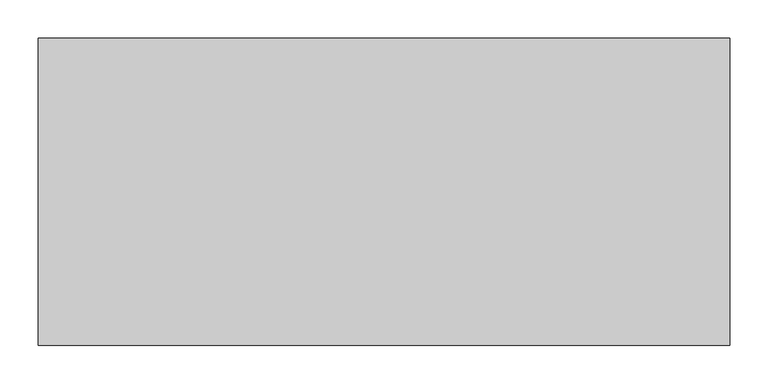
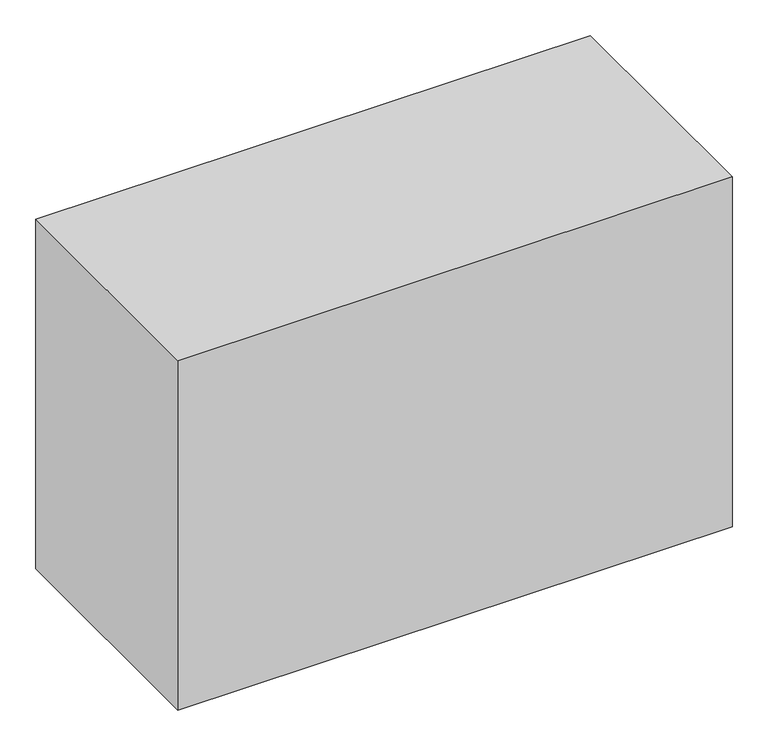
"""IFC4 building model written with IfcOpenShell, lengths in millimetres: proxy geometry, DMS-BWIC Family : BWIC_Square."""

from ifc_helpers import new_model, si_unit, frame, origin, place, context, project, spatial, polyline, outline, extrude, source, transform, mapped, element, save


def generic_models_ac97eb3e(model_context):
    return source(origin(), model_context, "Body", "SweptSolid", [
        extrude(outline(polyline([(450.0, 200.0), (450.0, -200.0), (-450.0, -200.0), (-450.0, 200.0), (450.0, 200.0)])), frame((0.0, 0.0, -600.0), z_axis=(0.0, 0.0, 1.0), x_axis=(1.0, 0.0, 0.0)), (0.0, 0.0, 1.0), 600.0),
    ])


if __name__ == "__main__":
    model = new_model("IFC4")
    model_context = context("Model", 3, world=origin())
    ifc_project = project(units=[si_unit("LENGTHUNIT", "METRE", prefix="MILLI")], contexts=[model_context])
    site = spatial("IfcSite", under=ifc_project)
    building = spatial("IfcBuilding", under=site)
    placement = place(None, origin())
    generic_models_shape = generic_models_ac97eb3e(model_context)
    element("IfcBuildingElementProxy", 1, Name="DMS-BWIC Family : BWIC_Square", ObjectType="DMS-BWIC Family : BWIC_Square", at=placement, inside=building, context=model_context, shape_type="MappedRepresentation", body=[
        mapped(generic_models_shape, transform((0.0, 0.0, 0.0), x_axis=(1.0, 0.0, 0.0), y_axis=(0.0, 1.0, 0.0), z_axis=(0.0, 0.0, 1.0))),
    ])
    save(model, "model.ifc")
